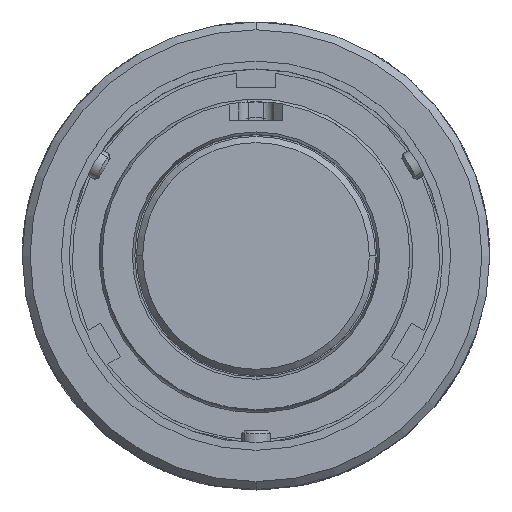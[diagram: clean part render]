
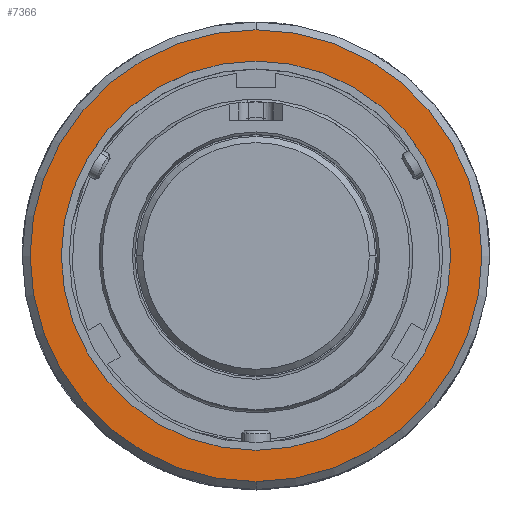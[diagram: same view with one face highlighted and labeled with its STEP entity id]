
A CAD part, top view. The second image highlights one B-rep face of the part: STEP entity #7366.
In plain terms, the highlighted planar face has unit normal (0, 0, 1).
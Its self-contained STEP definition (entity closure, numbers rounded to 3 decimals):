
#149 = DIRECTION ( 'NONE',  ( 0., 0., -1. ) ) ;
#205 = CARTESIAN_POINT ( 'NONE',  ( 0., 15.812, -0.813 ) ) ;
#883 = VERTEX_POINT ( 'NONE', #6387 ) ;
#933 = EDGE_CURVE ( 'NONE', #6516, #7533, #1731, .T. ) ;
#937 = DIRECTION ( 'NONE',  ( 0., 0., 1. ) ) ;
#939 = CARTESIAN_POINT ( 'NONE',  ( 0., 0., -0.813 ) ) ;
#1157 = EDGE_LOOP ( 'NONE', ( #7809, #9157 ) ) ;
#1705 = PLANE ( 'NONE',  #2370 ) ;
#1731 = CIRCLE ( 'NONE', #3350, 15.812 ) ;
#2196 = VERTEX_POINT ( 'NONE', #3313 ) ;
#2370 = AXIS2_PLACEMENT_3D ( 'NONE', #6394, #937, #2606 ) ;
#2455 = EDGE_LOOP ( 'NONE', ( #7649, #9709 ) ) ;
#2606 = DIRECTION ( 'NONE',  ( 0., -1., 0. ) ) ;
#3246 = DIRECTION ( 'NONE',  ( 0., 1., 0. ) ) ;
#3313 = CARTESIAN_POINT ( 'NONE',  ( 0., 18.352, -0.813 ) ) ;
#3318 = FACE_OUTER_BOUND ( 'NONE', #1157, .T. ) ;
#3350 = AXIS2_PLACEMENT_3D ( 'NONE', #3958, #4723, #7063 ) ;
#3545 = CIRCLE ( 'NONE', #4673, 18.352 ) ;
#3958 = CARTESIAN_POINT ( 'NONE',  ( 0., 0., -0.813 ) ) ;
#3989 = CARTESIAN_POINT ( 'NONE',  ( 0., 0., -0.813 ) ) ;
#3994 = CARTESIAN_POINT ( 'NONE',  ( 0., 0., -0.813 ) ) ;
#4026 = DIRECTION ( 'NONE',  ( 0., 0., -1. ) ) ;
#4542 = EDGE_CURVE ( 'NONE', #7533, #6516, #5819, .T. ) ;
#4673 = AXIS2_PLACEMENT_3D ( 'NONE', #939, #4026, #8418 ) ;
#4723 = DIRECTION ( 'NONE',  ( 0., 0., -1. ) ) ;
#5557 = DIRECTION ( 'NONE',  ( 0., 1., 0. ) ) ;
#5819 = CIRCLE ( 'NONE', #7120, 15.812 ) ;
#6387 = CARTESIAN_POINT ( 'NONE',  ( 0., -18.352, -0.813 ) ) ;
#6394 = CARTESIAN_POINT ( 'NONE',  ( 0., 18.352, -0.813 ) ) ;
#6516 = VERTEX_POINT ( 'NONE', #205 ) ;
#7063 = DIRECTION ( 'NONE',  ( 0., 1., 0. ) ) ;
#7088 = DIRECTION ( 'NONE',  ( 0., 0., -1. ) ) ;
#7120 = AXIS2_PLACEMENT_3D ( 'NONE', #3989, #7088, #5557 ) ;
#7366 = ADVANCED_FACE ( 'NONE', ( #8746, #3318 ), #1705, .T. ) ;
#7533 = VERTEX_POINT ( 'NONE', #8329 ) ;
#7649 = ORIENTED_EDGE ( 'NONE', *, *, #933, .T. ) ;
#7713 = AXIS2_PLACEMENT_3D ( 'NONE', #3994, #149, #3246 ) ;
#7809 = ORIENTED_EDGE ( 'NONE', *, *, #10037, .F. ) ;
#8244 = EDGE_CURVE ( 'NONE', #883, #2196, #9834, .T. ) ;
#8329 = CARTESIAN_POINT ( 'NONE',  ( 0., -15.812, -0.813 ) ) ;
#8418 = DIRECTION ( 'NONE',  ( 0., 1., 0. ) ) ;
#8746 = FACE_BOUND ( 'NONE', #2455, .T. ) ;
#9157 = ORIENTED_EDGE ( 'NONE', *, *, #8244, .F. ) ;
#9709 = ORIENTED_EDGE ( 'NONE', *, *, #4542, .T. ) ;
#9834 = CIRCLE ( 'NONE', #7713, 18.352 ) ;
#10037 = EDGE_CURVE ( 'NONE', #2196, #883, #3545, .T. ) ;
